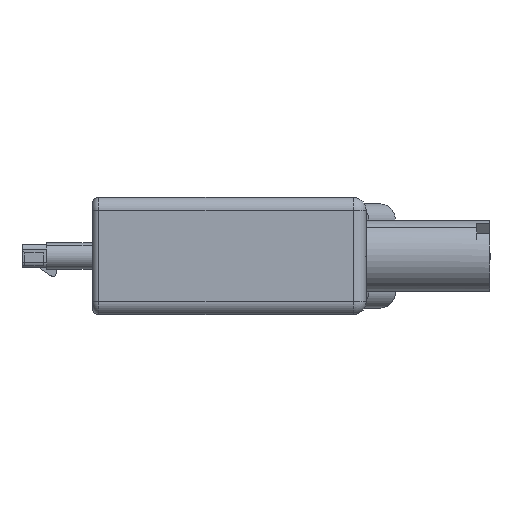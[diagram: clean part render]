
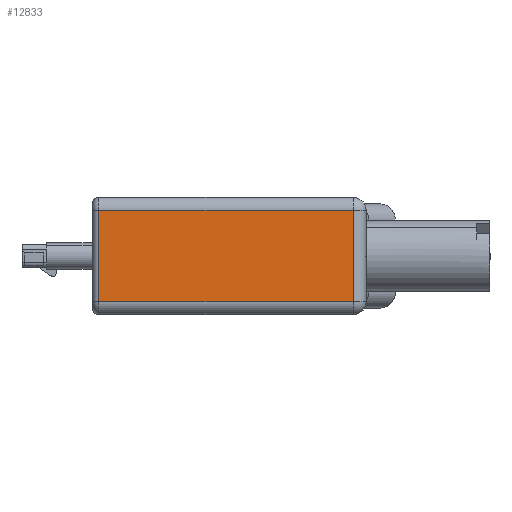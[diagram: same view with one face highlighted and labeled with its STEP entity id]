
A CAD part, front view. The second image highlights one B-rep face of the part: STEP entity #12833.
In plain terms, the highlighted planar face has unit normal (0, -1, 0) as drawn and (-1, 0, 0) by its records, which use the part's own axes.
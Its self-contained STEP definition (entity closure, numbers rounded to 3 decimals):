
#307 = EDGE_CURVE ( 'NONE', #7333, #7254, #7632, .T. ) ;
#308 = EDGE_CURVE ( 'NONE', #7337, #7333, #7640, .T. ) ;
#4920 = ORIENTED_EDGE ( 'NONE', *, *, #5985, .T. ) ;
#4921 = ORIENTED_EDGE ( 'NONE', *, *, #307, .T. ) ;
#4922 = ORIENTED_EDGE ( 'NONE', *, *, #308, .T. ) ;
#4924 = ORIENTED_EDGE ( 'NONE', *, *, #5980, .T. ) ;
#5249 = DIRECTION ( 'NONE',  ( 0., 0., 1. ) ) ;
#5250 = CARTESIAN_POINT ( 'NONE',  ( -12.1, -4.5, 4.5 ) ) ;
#5262 = CARTESIAN_POINT ( 'NONE',  ( -12.1, 15.5, 3.5 ) ) ;
#5263 = DIRECTION ( 'NONE',  ( 0., 1., 0. ) ) ;
#5308 = DIRECTION ( 'NONE',  ( 0., 0., -1. ) ) ;
#5309 = DIRECTION ( 'NONE',  ( 0., -1., 0. ) ) ;
#5311 = CARTESIAN_POINT ( 'NONE',  ( -12.1, 15.5, -3.5 ) ) ;
#5324 = CARTESIAN_POINT ( 'NONE',  ( -12.1, 15., 4.5 ) ) ;
#5980 = EDGE_CURVE ( 'NONE', #7174, #7337, #7610, .T. ) ;
#5985 = EDGE_CURVE ( 'NONE', #7254, #7174, #7607, .T. ) ;
#7174 = VERTEX_POINT ( 'NONE', #20653 ) ;
#7254 = VERTEX_POINT ( 'NONE', #20733 ) ;
#7333 = VERTEX_POINT ( 'NONE', #20812 ) ;
#7337 = VERTEX_POINT ( 'NONE', #20816 ) ;
#7604 = VECTOR ( 'NONE', #5249, 1000. ) ;
#7607 = LINE ( 'NONE', #5250, #7604 ) ;
#7610 = LINE ( 'NONE', #5262, #7611 ) ;
#7611 = VECTOR ( 'NONE', #5263, 1000. ) ;
#7627 = VECTOR ( 'NONE', #5308, 1000. ) ;
#7629 = VECTOR ( 'NONE', #5309, 1000. ) ;
#7632 = LINE ( 'NONE', #5311, #7629 ) ;
#7640 = LINE ( 'NONE', #5324, #7627 ) ;
#9012 = EDGE_LOOP ( 'NONE', ( #4924, #4922, #4921, #4920 ) ) ;
#12330 = AXIS2_PLACEMENT_3D ( 'NONE', #17067, #17073, #17074 ) ;
#12833 = ADVANCED_FACE ( 'NONE', ( #15277 ), #17071, .F. ) ;
#15277 = FACE_OUTER_BOUND ( 'NONE', #9012, .T. ) ;
#17067 = CARTESIAN_POINT ( 'NONE',  ( -12.1, 15.5, 4.5 ) ) ;
#17071 = PLANE ( 'NONE',  #12330 ) ;
#17073 = DIRECTION ( 'NONE',  ( 1., 0., 0. ) ) ;
#17074 = DIRECTION ( 'NONE',  ( 0., 1., 0. ) ) ;
#20653 = CARTESIAN_POINT ( 'NONE',  ( -12.1, -4.5, 3.5 ) ) ;
#20733 = CARTESIAN_POINT ( 'NONE',  ( -12.1, -4.5, -3.5 ) ) ;
#20812 = CARTESIAN_POINT ( 'NONE',  ( -12.1, 15., -3.5 ) ) ;
#20816 = CARTESIAN_POINT ( 'NONE',  ( -12.1, 15., 3.5 ) ) ;
